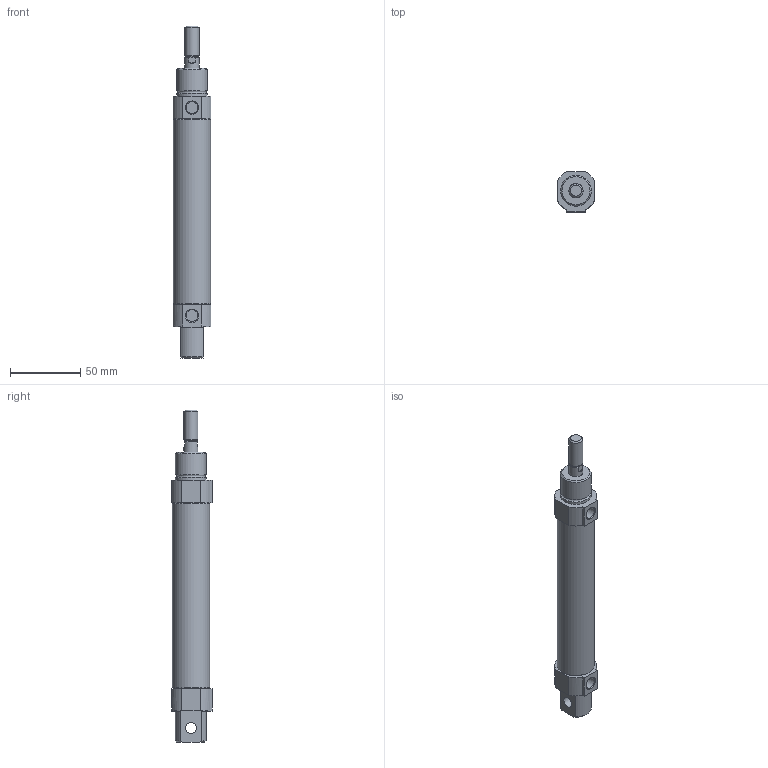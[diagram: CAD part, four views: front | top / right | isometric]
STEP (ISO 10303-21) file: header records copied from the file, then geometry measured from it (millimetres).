
FILE_DESCRIPTION((''),'2;1');
FILE_NAME('I:\3D電子目錄\氣缸\SDA\SDA25\SDA25\SDA25x100.stp','2007-08-06T10:32:50',('Administrator'),(''),'Autodesk Inventor 2008','Autodesk Inventor 2008','');
FILE_SCHEMA(('AUTOMOTIVE_DESIGN { 1 0 10303 214 1 1 1 1 }'));
Length unit declared in the file: millimetre
Products named in the file (1): SDA25X100
Bounding box: 27 x 28.5 x 236 mm (x, y, z)
Volume: 109714.6 mm3; surface area: 20381.4 mm2
Topology: 1 solids, 1 shells, 62 faces, 146 edges, 94 vertices
Faces by surface type: plane 30, cylinder 19, cone 10, bspline 2, torus 1
Full cylindrical faces by diameter (mm): 8 x1, 8.5 x2, 8.6 x1, 10 x2, 22 x2, 26.6 x1
Entity records: 1718 total; most frequent: CARTESIAN_POINT 307, DIRECTION 298, ORIENTED_EDGE 258, EDGE_CURVE 129, AXIS2_PLACEMENT_3D 116, VERTEX_POINT 93, EDGE_LOOP 88, VECTOR 66
